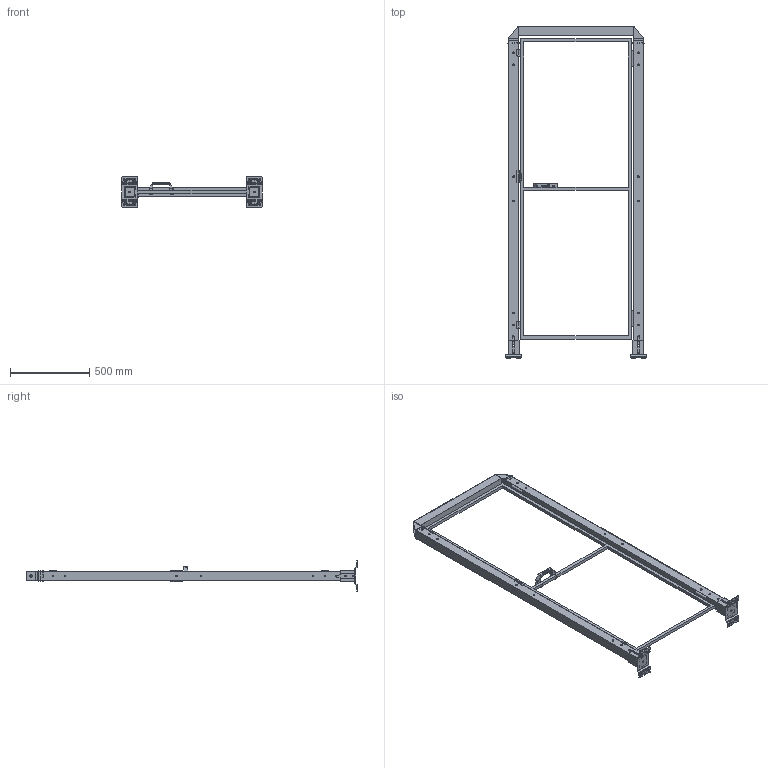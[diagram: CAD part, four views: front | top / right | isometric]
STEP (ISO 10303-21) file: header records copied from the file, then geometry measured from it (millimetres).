
FILE_DESCRIPTION(('STEP AP242'),'1');
FILE_NAME('vfda_bscncr2_07002020.stp','2025-01-23T13:56:50',('TraceParts'),('TraceParts S.A.'),'Spatial InterOp 3D',' ',' ');
FILE_SCHEMA(('AP242_MANAGED_MODEL_BASED_3D_ENGINEERING_MIM_LF {1 0 10303 442 1 1 4}'));
Length unit declared in the file: millimetre
Products named in the file (1): vfda_bscncr2_07002020_1
Bounding box: 890 x 2101 x 192 mm (x, y, z)
Volume: 4546252.4 mm3; surface area: 3000060 mm2
Topology: 12 solids, 12 shells, 1942 faces, 5208 edges, 3340 vertices
Faces by surface type: plane 950, cylinder 652, bspline 236, cone 60, torus 40, sphere 4
Entity records: 78408 total; most frequent: CARTESIAN_POINT 14215, ORIENTED_EDGE 10408, DIRECTION 9578, EDGE_CURVE 5204, VERTEX_POINT 3340, LINE 3216, VECTOR 3216, AXIS2_PLACEMENT_3D 3181
